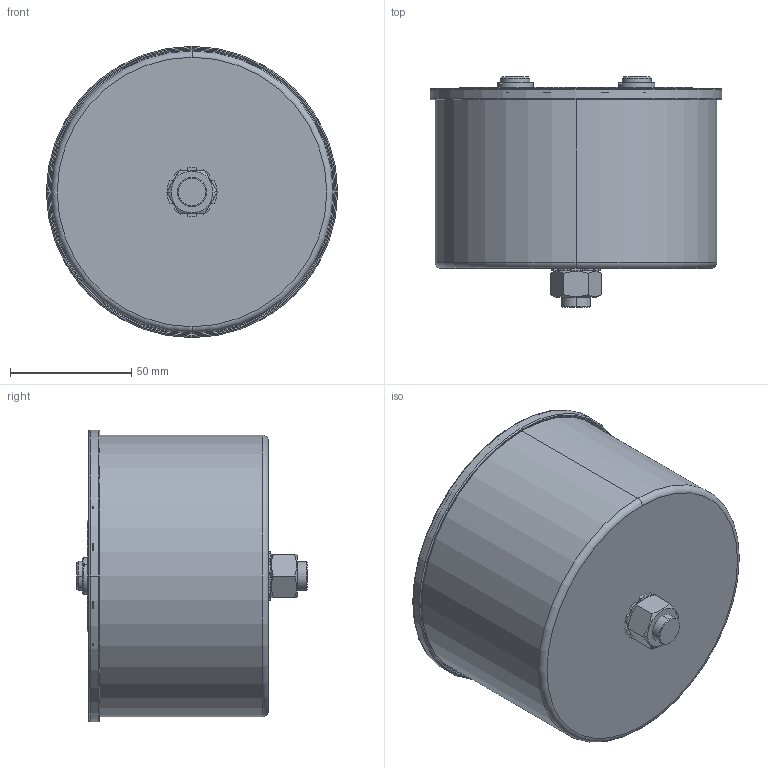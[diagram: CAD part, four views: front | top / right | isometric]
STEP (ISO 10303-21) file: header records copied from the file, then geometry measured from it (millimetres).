
FILE_DESCRIPTION (( 'STEP AP203' ), '1' );
FILE_NAME ('B25680Bx_116x74_79.STEP', '2021-09-13T05:56:26', ( '' ), ( '' ), 'SwSTEP 2.0', 'SolidWorks 2017', '' );
FILE_SCHEMA (( 'CONFIG_CONTROL_DESIGN' ));
Length unit declared in the file: millimetre
Products named in the file (1): B25680Bx_116x74_79
Bounding box: 120 x 95 x 120 mm (x, y, z)
Volume: 101516.5 mm3; surface area: 125064.5 mm2
Topology: 1 solids, 7 shells, 385 faces, 908 edges, 572 vertices
Faces by surface type: plane 153, cylinder 142, torus 42, cone 36, bspline 12
Entity records: 12405 total; most frequent: CARTESIAN_POINT 3162, DIRECTION 2092, ORIENTED_EDGE 1808, EDGE_CURVE 904, AXIS2_PLACEMENT_3D 850, VERTEX_POINT 572, CIRCLE 476, EDGE_LOOP 436
